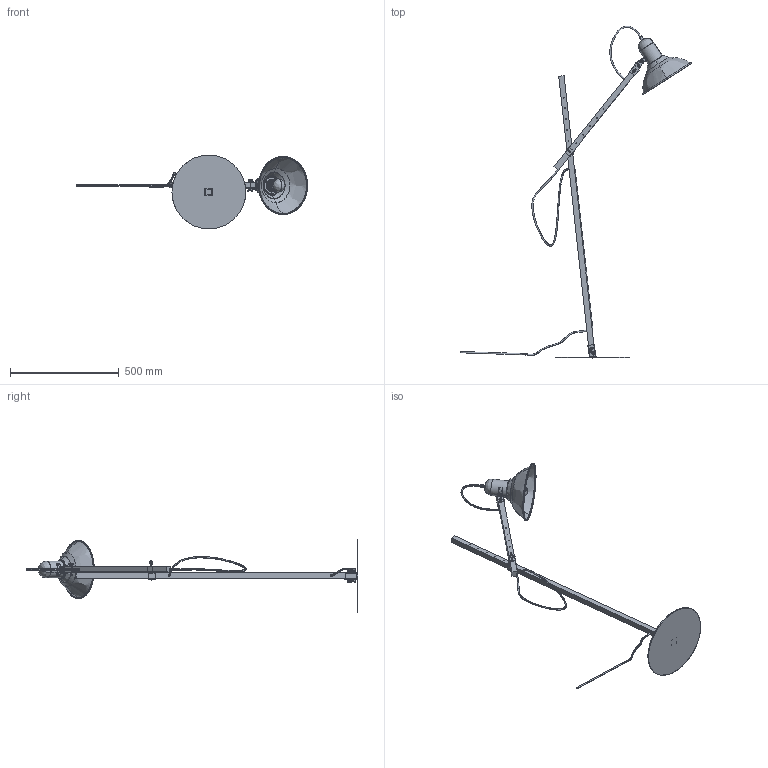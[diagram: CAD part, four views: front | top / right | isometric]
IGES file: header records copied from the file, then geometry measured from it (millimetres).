
Start section: SolidWorks IGES file using analytic representation for surfaces
Global section: file name: E:\3D lampy\Wood Boy\Wood boy.IGS; native system: SolidWorks 2016; preprocessor: SolidWorks 2016; author: Asia; date: 170809.143431; units: millimetre
Bounding box: 1064.93 x 1529.57 x 340 mm (x, y, z)
Surface area: 783489.7 mm2 (no closed solid volume)
Topology: 0 solids, 0 shells, 1389 faces, 21430 edges, 21337 vertices
Faces by surface type: bspline 720, revolution 669
